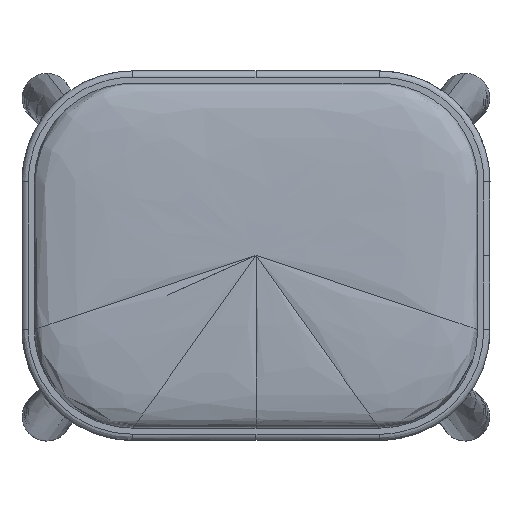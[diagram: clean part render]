
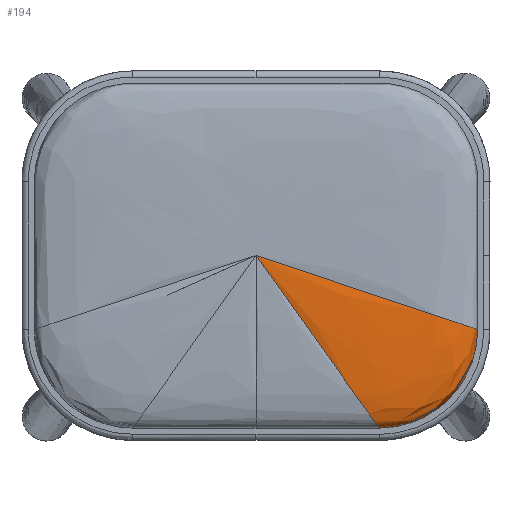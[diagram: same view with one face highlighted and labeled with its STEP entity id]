
A CAD part, top view. The second image highlights one B-rep face of the part: STEP entity #194.
In plain terms, the highlighted free-form (B-spline) face has degree [3, 3] with [4, 4] control points.
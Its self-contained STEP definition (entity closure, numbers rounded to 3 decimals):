
#194=ADVANCED_FACE('',(#306),#1506,.T.);
#306=FACE_OUTER_BOUND('',#418,.T.);
#418=EDGE_LOOP('',(#539,#540,#541,#542));
#539=ORIENTED_EDGE('',*,*,#1002,.T.);
#540=ORIENTED_EDGE('',*,*,#1003,.T.);
#541=ORIENTED_EDGE('',*,*,#1000,.F.);
#542=ORIENTED_EDGE('',*,*,#993,.T.);
#993=EDGE_CURVE('',#1358,#1357,#1234,.T.);
#1000=EDGE_CURVE('',#1358,#1363,#1241,.T.);
#1002=EDGE_CURVE('',#1357,#1364,#1243,.T.);
#1003=EDGE_CURVE('',#1364,#1363,#1244,.T.);
#1234=(
BOUNDED_CURVE()
B_SPLINE_CURVE(3,(#1874,#1875,#1876,#1877),.UNSPECIFIED.,.F.,.F.)
B_SPLINE_CURVE_WITH_KNOTS((4,4),(1278.956,1438.651),
 .UNSPECIFIED.)
CURVE()
GEOMETRIC_REPRESENTATION_ITEM()
RATIONAL_B_SPLINE_CURVE((1.,0.805,0.805,1.))
REPRESENTATION_ITEM('')
);
#1241=(
BOUNDED_CURVE()
B_SPLINE_CURVE(3,(#1904,#1905,#1906,#1907),.UNSPECIFIED.,.F.,.F.)
B_SPLINE_CURVE_WITH_KNOTS((4,4),(0.,1.),.UNSPECIFIED.)
CURVE()
GEOMETRIC_REPRESENTATION_ITEM()
RATIONAL_B_SPLINE_CURVE((1.,1.,1.,1.))
REPRESENTATION_ITEM('')
);
#1243=(
BOUNDED_CURVE()
B_SPLINE_CURVE(3,(#1914,#1915,#1916,#1917),.UNSPECIFIED.,.F.,.F.)
B_SPLINE_CURVE_WITH_KNOTS((4,4),(0.,1.),.UNSPECIFIED.)
CURVE()
GEOMETRIC_REPRESENTATION_ITEM()
RATIONAL_B_SPLINE_CURVE((1.,1.,1.,1.))
REPRESENTATION_ITEM('')
);
#1244=(
BOUNDED_CURVE()
B_SPLINE_CURVE(3,(#1918,#1919,#1920,#1921),.UNSPECIFIED.,.F.,.F.)
B_SPLINE_CURVE_WITH_KNOTS((4,4),(-1438.651,-1278.956),
 .UNSPECIFIED.)
CURVE()
GEOMETRIC_REPRESENTATION_ITEM()
RATIONAL_B_SPLINE_CURVE((1.,0.805,0.805,1.))
REPRESENTATION_ITEM('')
);
#1357=VERTEX_POINT('',#1814);
#1358=VERTEX_POINT('',#1815);
#1363=VERTEX_POINT('',#1820);
#1364=VERTEX_POINT('',#1821);
#1506=(
BOUNDED_SURFACE()
B_SPLINE_SURFACE(3,3,((#1708,#1709,#1710,#1711),(#1712,#1713,#1714,#1715),
(#1716,#1717,#1718,#1719),(#1720,#1721,#1722,#1723)),.UNSPECIFIED.,.F.,
 .F.,.F.)
B_SPLINE_SURFACE_WITH_KNOTS((4,4),(4,4),(1278.956,1438.651),
(0.,1.),.UNSPECIFIED.)
GEOMETRIC_REPRESENTATION_ITEM()
RATIONAL_B_SPLINE_SURFACE(((1.,1.,1.,1.),(0.805,0.805,
0.805,0.805),(0.805,0.805,
0.805,0.805),(1.,1.,1.,1.)))
REPRESENTATION_ITEM('')
SURFACE()
);
#1708=CARTESIAN_POINT('',(0.,0.,749.595));
#1709=CARTESIAN_POINT('',(95.159,-133.222,749.595));
#1710=CARTESIAN_POINT('',(100.,-140.,746.046));
#1711=CARTESIAN_POINT('',(100.,-140.,729.595));
#1712=CARTESIAN_POINT('',(0.,0.,749.595));
#1713=CARTESIAN_POINT('',(139.753,-133.222,749.595));
#1714=CARTESIAN_POINT('',(146.863,-140.,746.046));
#1715=CARTESIAN_POINT('',(146.863,-140.,729.595));
#1716=CARTESIAN_POINT('',(0.,0.,749.595));
#1717=CARTESIAN_POINT('',(171.286,-101.689,749.595));
#1718=CARTESIAN_POINT('',(180.,-106.863,746.046));
#1719=CARTESIAN_POINT('',(180.,-106.863,729.595));
#1720=CARTESIAN_POINT('',(0.,0.,749.595));
#1721=CARTESIAN_POINT('',(171.286,-57.095,749.595));
#1722=CARTESIAN_POINT('',(180.,-60.,746.046));
#1723=CARTESIAN_POINT('',(180.,-60.,729.595));
#1814=CARTESIAN_POINT('',(0.,0.,749.595));
#1815=CARTESIAN_POINT('',(0.,0.,749.595));
#1820=CARTESIAN_POINT('',(100.,-140.,729.595));
#1821=CARTESIAN_POINT('',(180.,-60.,729.595));
#1874=CARTESIAN_POINT('',(0.,0.,749.595));
#1875=CARTESIAN_POINT('',(0.,0.,749.595));
#1876=CARTESIAN_POINT('',(0.,0.,749.595));
#1877=CARTESIAN_POINT('',(0.,0.,749.595));
#1904=CARTESIAN_POINT('',(0.,0.,749.595));
#1905=CARTESIAN_POINT('',(95.159,-133.222,749.595));
#1906=CARTESIAN_POINT('',(100.,-140.,746.046));
#1907=CARTESIAN_POINT('',(100.,-140.,729.595));
#1914=CARTESIAN_POINT('',(0.,0.,749.595));
#1915=CARTESIAN_POINT('',(171.286,-57.095,749.595));
#1916=CARTESIAN_POINT('',(180.,-60.,746.046));
#1917=CARTESIAN_POINT('',(180.,-60.,729.595));
#1918=CARTESIAN_POINT('',(180.,-60.,729.595));
#1919=CARTESIAN_POINT('',(180.,-106.863,729.595));
#1920=CARTESIAN_POINT('',(146.863,-140.,729.595));
#1921=CARTESIAN_POINT('',(100.,-140.,729.595));
